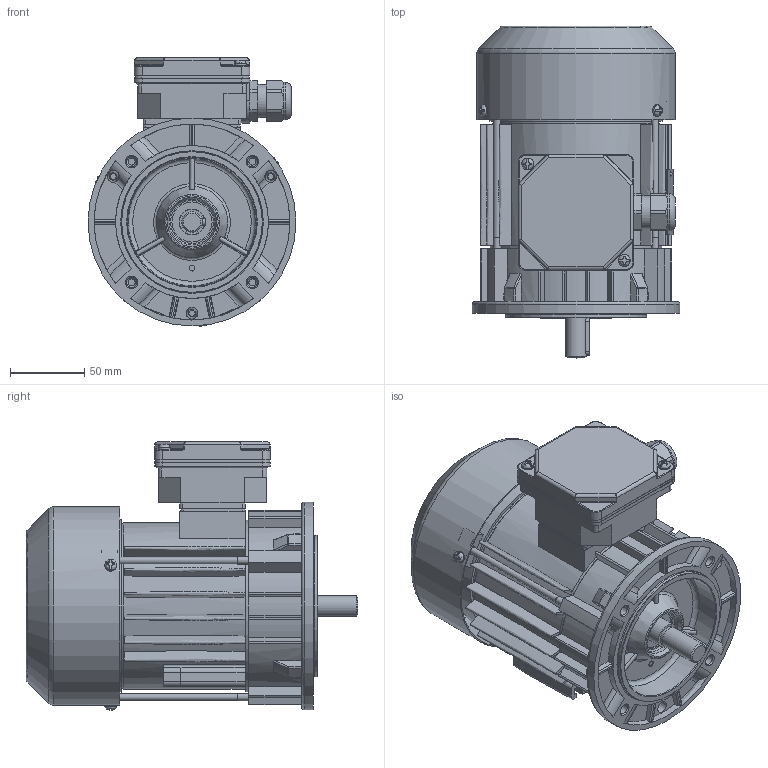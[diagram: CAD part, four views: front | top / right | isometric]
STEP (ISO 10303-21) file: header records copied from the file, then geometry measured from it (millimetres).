
FILE_DESCRIPTION( ( 'Unknown' ), '1' );
FILE_NAME( 'G:/Poczta Tk-1/STP/w.m.71/Sh71/SKh71-.A1.stp', 'Unknown', ( 'K. Szlosek' ), ( 'BESEL S.A.' ), 'PSStep 17.0.49', 'Unknown', ' ' );
FILE_SCHEMA( ( 'AUTOMOTIVE_DESIGN { 1 0 10303 214 1 1 1 1 }' ) );
Length unit declared in the file: millimetre
Products named in the file (29): skrznka zaciskowa trójfazowa ; K4-2820 Uszczelka nr 2 Sh71,80; Dławnica M20x1,5; K2-0859 Podstawa skrzynki 6-cio zaciskowej; K2-0860 Pokrywka skrzynki zaciskowej; Assem1; K3-5958 Tarcza łożyskowa P Sh71 (dla dł. A); Wpust A5x5x25; Wkręt samogwintujący M4x8; Wkręt samogwintujący M4x16; K1-1194 Kadłub z zamkami Sh71-.B; K4-4122 Osłona przewietrznika Sh71-.A; K3-3984 Przewietrznik Sh71; K4-2320 Uszczelka nr 1 Sh71,80; K3-6688 Wał Standard Sh71-A; Nitokołek A 2x6; Łożysko 6203; Śruba ściągająca E_M5x110; Tabliczka znamionowa 32x44; K1-1246 Tarcza kołnierzowa B14_1 w.m. 71
Assembly tree (44 placements, depth 3):
  Assem1
    K3-5958 Tarcza łożyskowa P Sh71 (dla dł. A)
    Wpust A5x5x25
    Wkręt samogwintujący M4x8  x3
    Wkręt samogwintujący M4x16  x2
    K1-1194 Kadłub z zamkami Sh71-.B
    K4-4122 Osłona przewietrznika Sh71-.A
    K3-3984 Przewietrznik Sh71
    K4-2320 Uszczelka nr 1 Sh71,80
    K3-6688 Wał Standard Sh71-A
    Nitokołek A 2x6  x2
    Łożysko 6203  x2
    Łożysko 6203  x2
    Łożysko 6203  x2
    Łożysko 6203  x2
    Łożysko 6203  x2
    Łożysko 6203  x2
    Łożysko 6203  x2
    Łożysko 6203  x2
    Łożysko 6203  x2
    Łożysko 6203  x2
    Śruba ściągająca E_M5x110  x3
    Tabliczka znamionowa 32x44
    K1-1246 Tarcza kołnierzowa B14_1 w.m. 71
    skrznka zaciskowa trójfazowa 
      K4-2820 Uszczelka nr 2 Sh71,80
      Dławnica M20x1,5
      K2-0859 Podstawa skrzynki 6-cio zaciskowej
      K2-0860 Pokrywka skrzynki zaciskowej
Bounding box: 140 x 223.5 x 180.57 mm (x, y, z)
Volume: 623559.3 mm3; surface area: 404677.9 mm2
Topology: 43 solids, 59 shells, 1923 faces, 5333 edges, 3503 vertices
Faces by surface type: plane 923, cylinder 628, cone 126, torus 114, bspline 90, sphere 42
Full cylindrical faces by diameter (mm): 2 x2, 2.4 x2, 3.7 x7, 3.8 x4, 4 x6, 4.134 x3, 4.5 x1, 4.6 x3, 4.8 x4, 5 x7, 5.5 x3, 6.8 x4, 7 x1, 8 x9, 13.6 x1, 14 x1, 15.9 x1, 16.1 x1, 16.5 x1, 16.6 x2, 17 x4, 17.4 x2, 18.376 x1, 18.38 x1, 20 x1, 22 x2, 22.3 x1, 22.5 x1, 22.7 x1, 23 x2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
Entity records: 78268 total; most frequent: CARTESIAN_POINT 24823, ORIENTED_EDGE 9224, DIRECTION 8955, EDGE_CURVE 4612, AXIS2_PLACEMENT_3D 3348, VERTEX_POINT 3173, LINE 2259, VECTOR 2259
